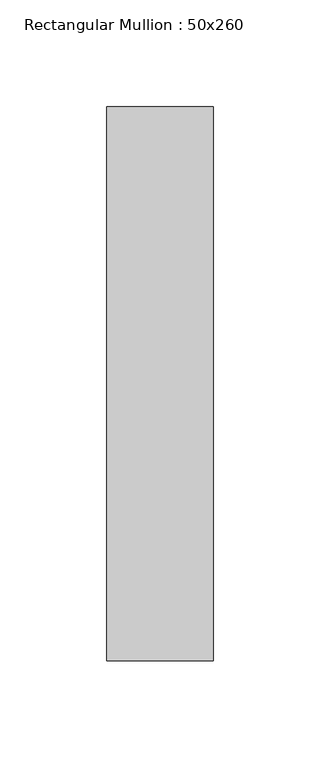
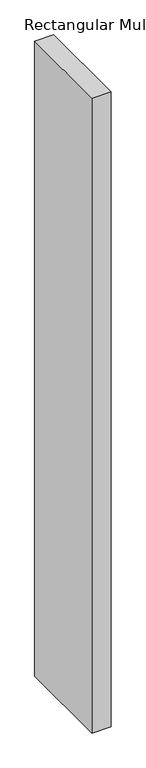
"""IFC4 building model written with IfcOpenShell, lengths in millimetres: member geometry, Rectangular Mullion : 50x260."""

from ifc_helpers import new_model, si_unit, frame, origin, place, context, project, spatial, polyline, outline, extrude, source, transform, mapped, element, save


def rectangular_mullion_50x260_1ee29e54(model_context):
    return source(origin(), model_context, "Body", "SweptSolid", [
        extrude(outline(polyline([(0.0, 130.0), (0.0, -130.0), (-50.0, -130.0), (-50.0, 130.0), (0.0, 130.0)])), frame((0.0, 0.0, -1760.8088063), z_axis=(0.0, 0.0, 1.0), x_axis=(1.0, 0.0, 0.0)), (0.0, 0.0, 1.0), 1760.8088063),
    ])


if __name__ == "__main__":
    model = new_model("IFC4")
    model_context = context("Model", 3, world=origin())
    ifc_project = project(units=[si_unit("LENGTHUNIT", "METRE", prefix="MILLI")], contexts=[model_context])
    site = spatial("IfcSite", under=ifc_project)
    building = spatial("IfcBuilding", under=site)
    placement = place(None, origin())
    rectangular_mullion_50x260_shape = rectangular_mullion_50x260_1ee29e54(model_context)
    element("IfcMember", 1, ObjectType="Rectangular Mullion : 50x260", at=placement, inside=building, context=model_context, shape_type="MappedRepresentation", body=[
        mapped(rectangular_mullion_50x260_shape, transform((0.0, 0.0, 0.0), x_axis=(1.0, 0.0, 0.0), y_axis=(0.0, 1.0, 0.0), z_axis=(0.0, 0.0, 1.0))),
    ])
    save(model, "model.ifc")
